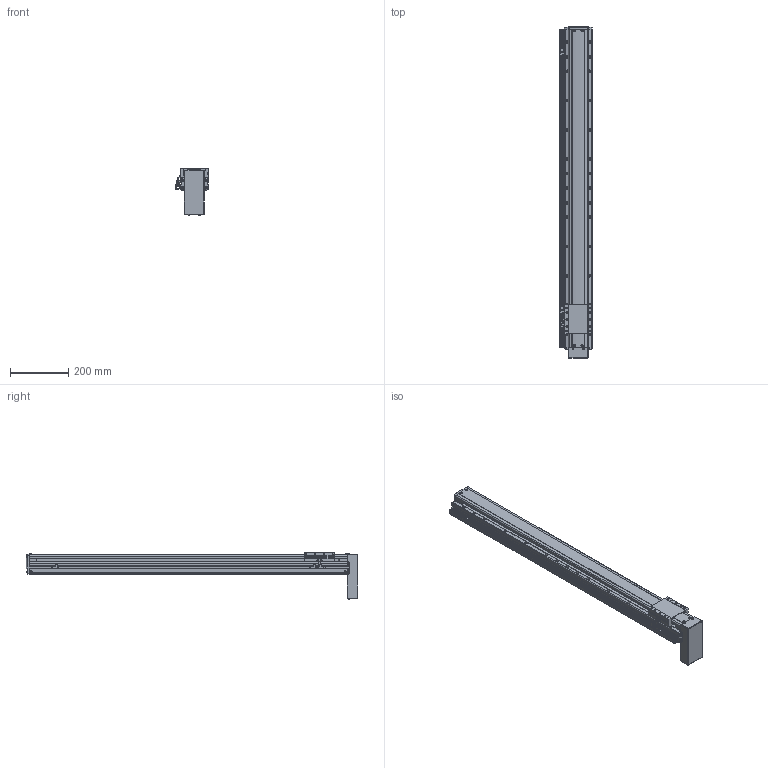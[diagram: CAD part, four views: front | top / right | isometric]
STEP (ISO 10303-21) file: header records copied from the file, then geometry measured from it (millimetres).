
FILE_DESCRIPTION(('STEP AP214'),'1');
FILE_NAME('Z:/Web/3D/PSA95/STP/PSA95-900 (3D)/PSA95ㅁㅁ-900PB+3SL.stp','2014-07-03T00:58:13',(' '),(' '),'Spatial InterOp 3D',' ',' ');
FILE_SCHEMA(('automotive_design'));
Length unit declared in the file: millimetre
Products named in the file (47): BASE; RRCV; 스크루 : Round - M4.0 x 10.0; 너트 : Square - M10.0 x 220.7419; RR1500; FRCV-090; 스크루 : Round - M4.0 x 6.0; SLBL-PA90; MTPL COVER; 스크루 : Round - M3.0 x 6.0; 1; 2; EE-SX674; SBK-SX674-352; M3.0 x 6.0; SRL-16x17-380L; SGD-PA95; 스크루 : Round - M3.0 x 8.0
Bounding box: 111.1 x 1137.5 x 159.57 mm (x, y, z)
Volume: 6381174 mm3; surface area: 747524.5 mm2
Topology: 47 solids, 47 shells, 2622 faces, 6961 edges, 4459 vertices
Faces by surface type: plane 1495, cylinder 765, cone 254, sphere 70, bspline 24, torus 14
Entity records: 104946 total; most frequent: CARTESIAN_POINT 17276, DIRECTION 13952, ORIENTED_EDGE 13618, EDGE_CURVE 6809, AXIS2_PLACEMENT_3D 4689, LINE 4574, VECTOR 4574, VERTEX_POINT 4459
